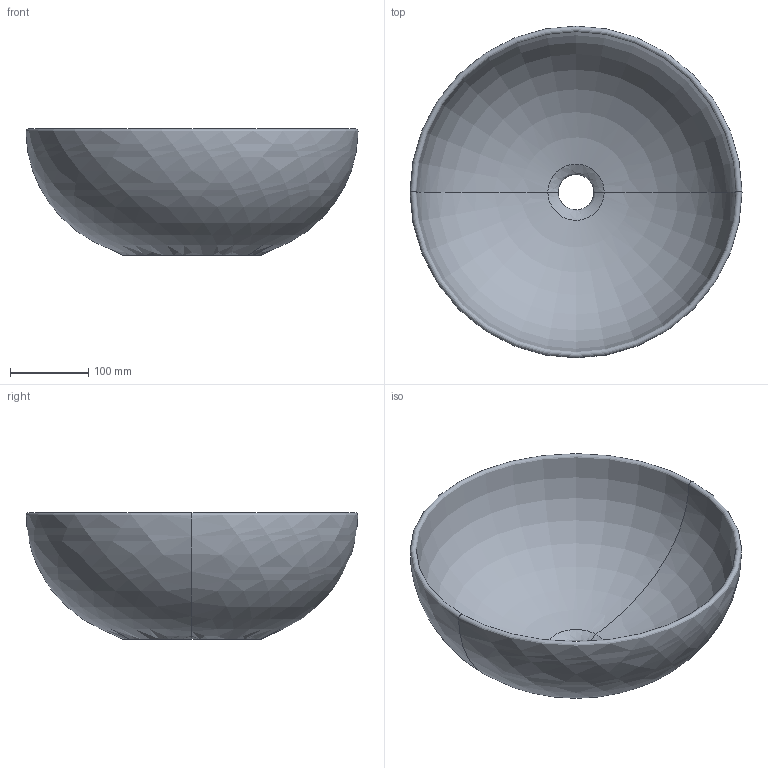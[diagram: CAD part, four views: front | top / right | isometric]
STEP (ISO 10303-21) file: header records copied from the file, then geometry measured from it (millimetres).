
FILE_DESCRIPTION(/* description */ (''),/* implementation_level */ '2;1');
FILE_NAME(/* name */ 'CIOTOL~1',/* time_stamp */ '2019-06-24T11:37:47+02:00',/* author */ (''),/* organization */ (''),/* preprocessor_version */ 'ST-DEVELOPER v16.5',/* originating_system */ '',/* authorisation */ '');
FILE_SCHEMA (('AUTOMOTIVE_DESIGN'));
Length unit declared in the file: millimetre
Products named in the file (1): Document
Bounding box: 424.99 x 424.47 x 162 mm (x, y, z)
Volume: 3015590.3 mm3; surface area: 485361.9 mm2
Topology: 1 solids, 1 shells, 5 faces, 12 edges, 9 vertices
Faces by surface type: bspline 4, plane 1
Entity records: 415 total; most frequent: CARTESIAN_POINT 325, ORIENTED_EDGE 20, EDGE_CURVE 10, DIRECTION 7, EDGE_LOOP 6, VERTEX_POINT 6, ADVANCED_FACE 5, FACE_OUTER_BOUND 5
